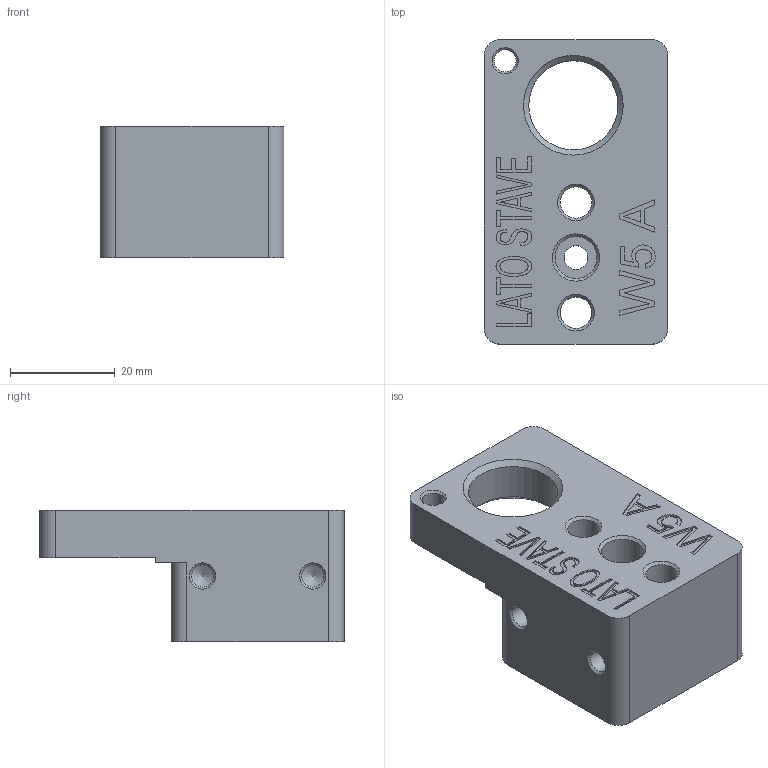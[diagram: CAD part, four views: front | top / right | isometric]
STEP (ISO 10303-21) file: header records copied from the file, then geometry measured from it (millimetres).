
FILE_DESCRIPTION(/* description */ (''),/* implementation_level */ '2;1');
FILE_NAME(/* name */ 'WHEELS-INSERT.10.stp',/* time_stamp */ '2018-05-25T14:13:00+02:00',/* author */ (''),/* organization */ (''),/* preprocessor_version */ 'ST-DEVELOPER v16.7',/* originating_system */ 'SIEMENS PLM Software NX 12.0',/* authorisation */ '');
FILE_SCHEMA (('AP203_CONFIGURATION_CONTROLLED_3D_DESIGN_OF_MECHANICAL_PARTS_AND_ASSEMBLIES_MIM_LF { 1 0 10303 403 2 1 2}'));
Length unit declared in the file: millimetre
Products named in the file (1): turc66A81BAD9zd2
Bounding box: 35 x 58 x 25 mm (x, y, z)
Volume: 32000.8 mm3; surface area: 9458 mm2
Topology: 1 solids, 1 shells, 161 faces, 419 edges, 276 vertices
Faces by surface type: plane 109, extrusion 24, cylinder 14, cone 14
Full cylindrical faces by diameter (mm): 4.2 x3, 4.5 x1, 6 x2, 8 x1, 17 x1
Entity records: 5517 total; most frequent: CARTESIAN_POINT 1961, ORIENTED_EDGE 778, DIRECTION 517, EDGE_CURVE 389, VERTEX_POINT 270, B_SPLINE_CURVE_WITH_KNOTS 236, EDGE_LOOP 209, AXIS2_PLACEMENT_3D 178
